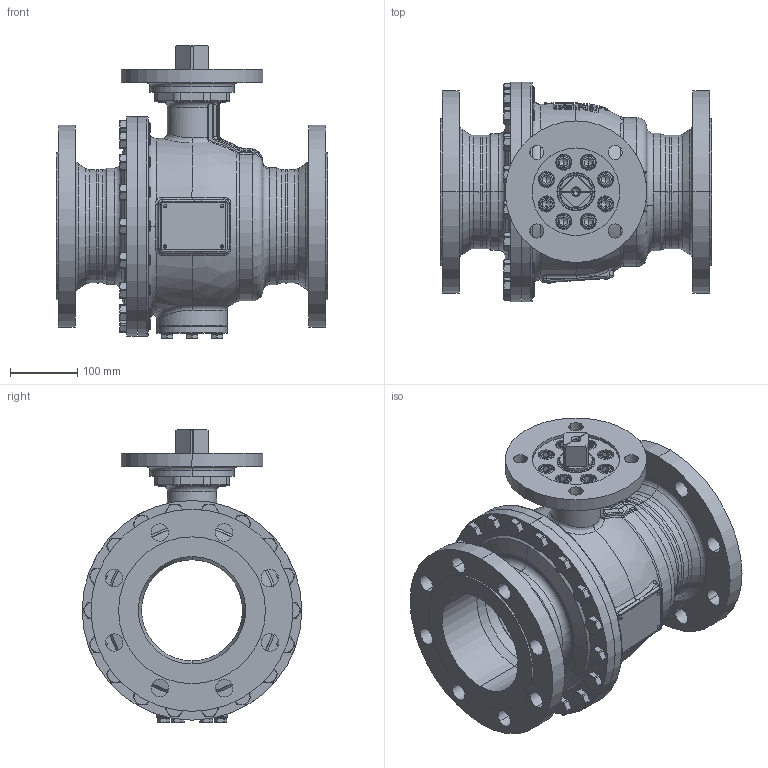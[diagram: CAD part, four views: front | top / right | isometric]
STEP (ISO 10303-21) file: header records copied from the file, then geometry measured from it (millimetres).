
FILE_DESCRIPTION((''),'2;1');
FILE_NAME('KHI-F_150_PN040-F16-4_SW0001','2026-02-05T11:40:52',('fischerkl'),('KLINGER'),'CREO PARAMETRIC BY PTC INC, 2023014','CREO PARAMETRIC BY PTC INC, 2023014','');
FILE_SCHEMA(('CONFIG_CONTROL_DESIGN'));
Products named in the file (1): KHI-F_150_PN040-F16-4_SW0001
Bounding box: 403 x 326 x 436.2 mm (x, y, z)
Volume: 8794874.4 mm3; surface area: 1620235.5 mm2
Topology: 1 solids, 4 shells, 3722 faces, 9522 edges, 5940 vertices
Faces by surface type: plane 2285, cylinder 670, cone 366, torus 260, bspline 113, sphere 28
Entity records: 144222 total; most frequent: CARTESIAN_POINT 56293, ORIENTED_EDGE 18992, DIRECTION 17372, EDGE_CURVE 9496, AXIS2_PLACEMENT_3D 6126, VERTEX_POINT 5940, VECTOR 5120, LINE 5120
